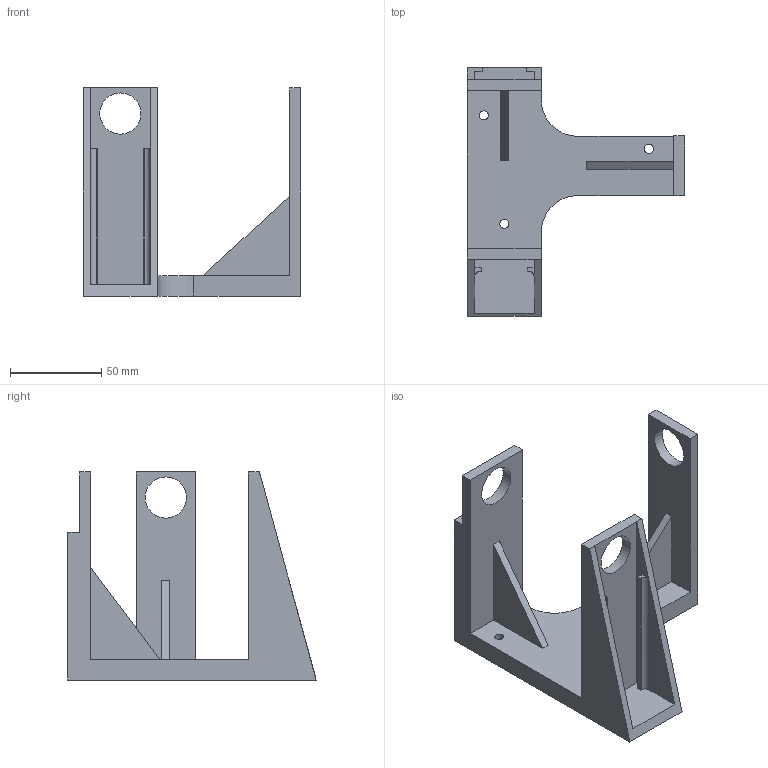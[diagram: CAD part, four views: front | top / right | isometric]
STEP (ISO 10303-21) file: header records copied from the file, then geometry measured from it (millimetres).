
FILE_DESCRIPTION(/* description */ (''),/* implementation_level */ '2;1');
FILE_NAME(/* name */ 'C:/Users/organicap/Desktop/3D Objects/Transmission/STEP/Housing.step',/* time_stamp */ '2019-06-02T05:22:57-05:00',/* author */ (''),/* organization */ (''),/* preprocessor_version */ 'ST-DEVELOPER v18',/* originating_system */ 'Autodesk Translation Framework v8.2.0.1029',/* authorisation */ '');
FILE_SCHEMA (('AUTOMOTIVE_DESIGN { 1 0 10303 214 3 1 1 }'));
Length unit declared in the file: millimetre
Products named in the file (1): Housing
Bounding box: 119 x 136.18 x 114 mm (x, y, z)
Volume: 173287.1 mm3; surface area: 62223.6 mm2
Topology: 1 solids, 1 shells, 57 faces, 160 edges, 106 vertices
Faces by surface type: plane 47, cylinder 10
Full cylindrical faces by diameter (mm): 5 x3, 22.6 x3
Entity records: 1877 total; most frequent: CARTESIAN_POINT 324, ORIENTED_EDGE 320, DIRECTION 298, EDGE_CURVE 160, LINE 138, VECTOR 138, VERTEX_POINT 106, AXIS2_PLACEMENT_3D 80
